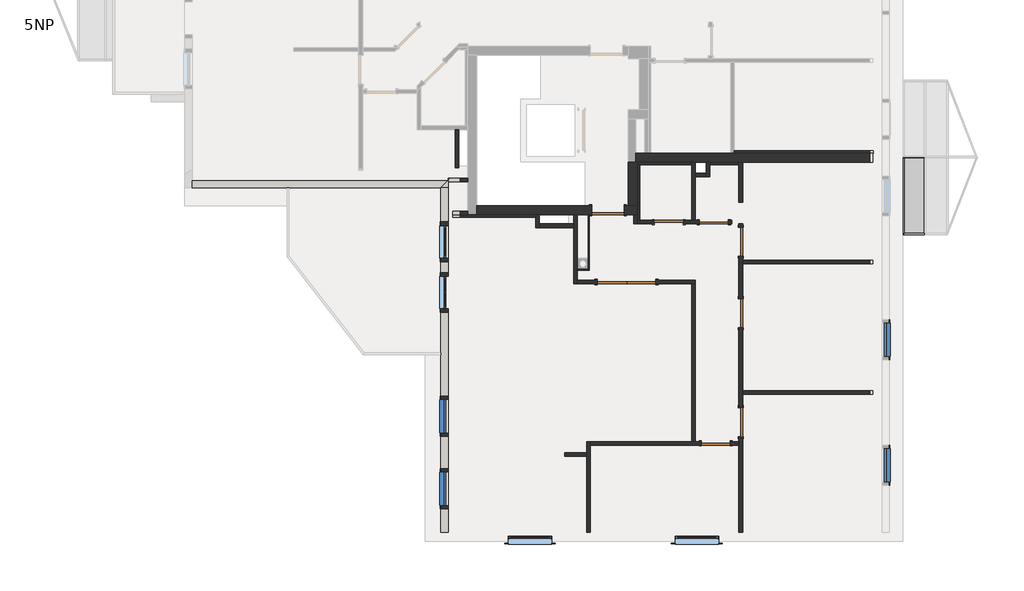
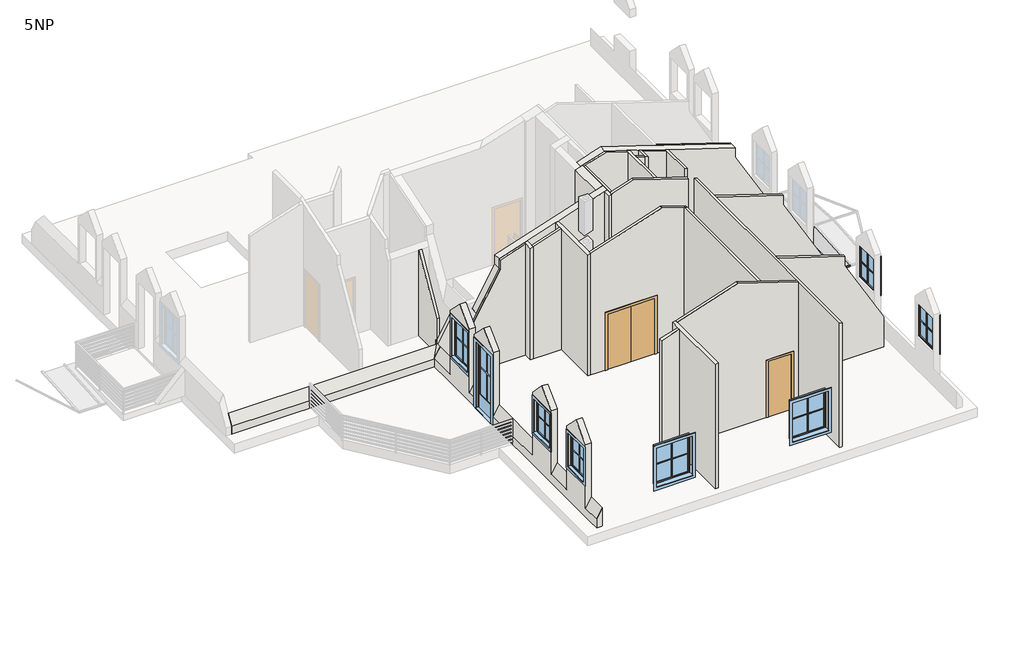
# One storey, part 1 of 4: 32 walls, 8 doors, 8 windows, 2 members, 1 plate.
"""IFC4 building model written with IfcOpenShell, lengths in millimetres."""

from ifc_helpers import new_model, si_unit, frame, origin, place, context, project, spatial, polyline, outline, extrude, faceted_brep, transform, mapped, element, save
from components import door_1600_x_2000mm_ba48827e, sd_800x2000_6a16926d, sd_800x2000_80f4ff25, sd_900x2000_a6683946, rectangular_mullion_40_40_14cc0a15, rectangular_mullion_40_40_b48b72c3, system_panel_system_panel_ddfd2fd1, standard_window_with_mullions_80486b60, standard_window_with_mullions_4ddc0d11, standard_window_with_mullions_4f38f980, window_2_c3f3d78e

model = new_model("IFC4")

# Units and contexts
model_context = context("Model", 3, world=origin())
ifc_project = project(units=[si_unit("LENGTHUNIT", "METRE", prefix="MILLI")], contexts=[model_context])

# Site, building, storey
site = spatial("IfcSite", under=ifc_project)
building = spatial("IfcBuilding", under=site)
storey = spatial("IfcBuildingStorey", under=building, Name="5NP", Elevation=11800.0)

# Doors
placement = place(None, origin())
door_1600_x_2000mm_shape = door_1600_x_2000mm_ba48827e(model_context)
element("IfcDoor", 1, ObjectType="DvoukridleOtevirave : 1600 x 2000mm", at=placement, inside=storey, context=model_context, shape_type="MappedRepresentation", body=[
    mapped(door_1600_x_2000mm_shape, transform((1514.937485, -3932.3709459, 11800.0), x_axis=(-1.0, 0.0, 0.0), y_axis=(0.0, -1.0, 0.0), z_axis=(0.0, 0.0, 1.0))),
])
sd_800x2000_shape = sd_800x2000_6a16926d(model_context)
element("IfcDoor", 2, ObjectType="JednokridlePlne : SD 800x2000", at=placement, inside=storey, context=model_context, shape_type="MappedRepresentation", body=[
    mapped(sd_800x2000_shape, transform((2678.2108579, -2282.3709459, 11800.0), x_axis=(-1.0, 0.0, 0.0), y_axis=(0.0, -1.0, 0.0), z_axis=(0.0, 0.0, 1.0))),
])
element("IfcDoor", 3, ObjectType="JednokridlePlne : SD 800x2000", at=placement, inside=storey, context=model_context, shape_type="MappedRepresentation", body=[
    mapped(sd_800x2000_shape, transform((4662.8037835, -2823.5069169, 11800.0), x_axis=(0.0, 1.0, 0.0), y_axis=(-1.0, 0.0, 0.0), z_axis=(0.0, 0.0, 1.0))),
])
sd_800x2000_2_shape = sd_800x2000_80f4ff25(model_context)
element("IfcDoor", 4, ObjectType="JednokridlePlne : SD 800x2000", at=placement, inside=storey, context=model_context, shape_type="MappedRepresentation", body=[
    mapped(sd_800x2000_2_shape, transform((3924.394389, -2282.3709459, 11800.0), x_axis=(-1.0, 0.0, 0.0), y_axis=(0.0, -1.0, 0.0), z_axis=(0.0, 0.0, 1.0))),
])
element("IfcDoor", 5, ObjectType="JednokridlePlne : SD 800x2000", at=placement, inside=storey, context=model_context, shape_type="MappedRepresentation", body=[
    mapped(sd_800x2000_2_shape, transform((4662.8037835, -4789.4455299, 11800.0), x_axis=(0.0, -1.0, 0.0), y_axis=(1.0, 0.0, 0.0), z_axis=(0.0, 0.0, 1.0))),
])
element("IfcDoor", 6, ObjectType="JednokridlePlne : SD 800x2000", at=placement, inside=storey, context=model_context, shape_type="MappedRepresentation", body=[
    mapped(sd_800x2000_2_shape, transform((4662.8037835, -7792.5643737, 11800.0), x_axis=(0.0, -1.0, 0.0), y_axis=(1.0, 0.0, 0.0), z_axis=(0.0, 0.0, 1.0))),
])
element("IfcDoor", 7, ObjectType="JednokridlePlne : SD 800x2000", at=placement, inside=storey, context=model_context, shape_type="MappedRepresentation", body=[
    mapped(sd_800x2000_2_shape, transform((3974.9367732, -8382.3709459, 11800.0), x_axis=(-1.0, 0.0, 0.0), y_axis=(0.0, -1.0, 0.0), z_axis=(0.0, 0.0, 1.0))),
])
sd_900x2000_shape = sd_900x2000_a6683946(model_context)
element("IfcDoor", 8, ObjectType="JednokridlePlne : SD 900x2000", at=placement, inside=storey, context=model_context, shape_type="MappedRepresentation", body=[
    mapped(sd_900x2000_shape, transform((1002.8077606, -1957.3709459, 11800.0), x_axis=(0.9999999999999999, 0.0, 0.0), y_axis=(0.0, 0.9999999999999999, 0.0), z_axis=(0.0, 0.0, 1.0))),
])

# Members
rectangular_mullion_40_40_shape = rectangular_mullion_40_40_14cc0a15(model_context)
element("IfcMember", 9, ObjectType="Rectangular Mullion : 40/40", at=placement, inside=storey, context=model_context, shape_type="MappedRepresentation", body=[
    mapped(rectangular_mullion_40_40_shape, transform((9132.8037835, -2632.3709459, 11530.0), x_axis=(-1.0, 0.0, 0.0), y_axis=(0.0, 0.06975647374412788, -0.9975640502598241), z_axis=(0.0, -0.997564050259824, -0.06975647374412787))),
])
rectangular_mullion_40_40_2_shape = rectangular_mullion_40_40_b48b72c3(model_context)
element("IfcMember", 10, ObjectType="Rectangular Mullion : 40/40", at=placement, inside=storey, context=model_context, shape_type="MappedRepresentation", body=[
    mapped(rectangular_mullion_40_40_2_shape, transform((9725.4168815, -2632.3709459, 11530.0), x_axis=(0.0, -0.9975640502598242, -0.06975647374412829), y_axis=(0.0, 0.06975647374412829, -0.9975640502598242), z_axis=(1.0, 0.0, 0.0))),
])

# Plate
system_panel_system_panel_shape = system_panel_system_panel_ddfd2fd1(model_context)
element("IfcPlate", 11, ObjectType="System Panel : System Panel", at=placement, inside=storey, context=model_context, shape_type="MappedRepresentation", body=[
    mapped(system_panel_system_panel_shape, transform((9449.1103325, -2592.4683839, 11532.7902589), x_axis=(1.0, 0.0, 0.0), y_axis=(0.0, 0.06975647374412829, -0.9975640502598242), z_axis=(0.0, 0.9975640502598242, 0.06975647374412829))),
])

# Walls
element("IfcWall", 12, ObjectType="Exterior - 150+50mm", at=placement, inside=storey, context=model_context, shape_type="Brep", body=[
    faceted_brep([(-10456.4352243, -1338.1208451, 11800.0), (-3598.9496412, -1338.1208451, 11800.0), (-3398.9496412, -1338.1208451, 11800.0), (-3398.9496412, -1338.1208451, 12457.027944), (-3598.9496412, -1338.1208451, 12110.6177824), (-3616.7447032, -1338.1208451, 12079.795831), (-7837.1962165, -1338.1208451, 12079.795831), (-10456.4352243, -1338.1208451, 12079.795831), (-10456.4352243, -1138.1208451, 11800.0), (-10456.4352243, -1138.1208451, 12426.2059925), (-3416.7447032, -1138.1208451, 12426.2059925), (-3398.9496412, -1138.1208451, 12457.027944), (-3398.9496412, -1138.1208451, 11800.0)], [[[0, 1, 2, 3, 4, 5, 6, 7]], [[8, 9, 10, 11, 12]], [[2, 1, 0, 8, 12]], [[3, 2, 12, 11]], [[0, 7, 9, 8]], [[7, 6, 5, 10, 9]], [[5, 4, 3, 11, 10]]]),
])
element("IfcWall", 13, ObjectType="Exterior - 150+50mm", at=placement, inside=storey, context=model_context, shape_type="Brep", body=[
    faceted_brep([(-3598.9496412, -4672.3709459, 14200.0), (-3598.9496412, -4672.3709459, 11800.0), (-3598.9496412, -5882.3709459, 11800.0), (-3598.9496412, -10832.3709459, 11800.0), (-3598.9496412, -10832.3709459, 12110.6177824), (-3598.9496412, -10182.3709452, 12110.6177824), (-3598.9496412, -10182.3709452, 14387.8679656), (-3598.9496412, -9632.3709452, 14937.8679656), (-3598.9496412, -9082.3709452, 14387.8679656), (-3598.9496412, -9082.3709452, 12110.6177824), (-3598.9496412, -8182.3709452, 12110.6177824), (-3598.9496412, -8182.3709452, 14387.8679656), (-3598.9496412, -7632.3709452, 14937.8679656), (-3598.9496412, -7082.3709452, 14387.8679656), (-3598.9496412, -7082.3709452, 12110.6177824), (-3598.9496412, -5932.3709459, 12110.6177824), (-3598.9496412, -4772.3709459, 12110.6177824), (-3598.9496412, -4772.3709459, 12830.6177824), (-3598.9496412, -4772.3709459, 14387.8679656), (-3598.9496412, -4222.3709459, 14937.8679656), (-3598.9496412, -3672.3709459, 14387.8679656), (-3598.9496412, -3672.3709459, 12830.6177824), (-3598.9496412, -3672.3709459, 12110.6177824), (-3598.9496412, -3377.3709459, 12110.6177824), (-3598.9496412, -3377.3709459, 12830.6177824), (-3598.9496412, -3377.3709459, 14387.8679656), (-3598.9496412, -2827.3709459, 14937.8679656), (-3598.9496412, -2277.3709459, 14387.8679656), (-3598.9496412, -2277.3709459, 12830.6177824), (-3598.9496412, -2277.3709459, 12110.6177824), (-3598.9496412, -1338.1208451, 12110.6177824), (-3598.9496412, -1338.1208451, 11800.0), (-3598.9496412, -3772.3709459, 11800.0), (-3598.9496412, -3772.3709459, 14200.0), (-3598.9496412, -3277.3709459, 12800.0), (-3598.9496412, -2377.3709459, 12800.0), (-3598.9496412, -2377.3709459, 14200.0), (-3598.9496412, -3277.3709459, 14200.0), (-3598.9496412, -8082.3709452, 13000.0), (-3598.9496412, -7182.3709452, 13000.0), (-3598.9496412, -7182.3709452, 14200.0), (-3598.9496412, -8082.3709452, 14200.0), (-3598.9496412, -10082.3709452, 13000.0), (-3598.9496412, -9182.3709452, 13000.0), (-3598.9496412, -9182.3709452, 14200.0), (-3598.9496412, -10082.3709452, 14200.0), (-3398.9496412, -10832.3709459, 11800.0), (-3398.9496412, -4672.3709459, 11800.0), (-3398.9496412, -4672.3709459, 14200.0), (-3398.9496412, -3772.3709459, 14200.0), (-3398.9496412, -3772.3709459, 11800.0), (-3398.9496412, -1338.1208451, 11800.0), (-3398.9496412, -1338.1208451, 12457.027944), (-3398.9496412, -2277.3709459, 12457.027944), (-3398.9496412, -2277.3709459, 14387.8679656), (-3398.9496412, -2827.3709459, 14937.8679656), (-3398.9496412, -3377.3709459, 14387.8679656), (-3398.9496412, -3377.3709459, 12457.027944), (-3398.9496412, -3672.3709459, 12457.027944), (-3398.9496412, -3672.3709459, 14387.8679656), (-3398.9496412, -4222.3709459, 14937.8679656), (-3398.9496412, -4772.3709459, 14387.8679656), (-3398.9496412, -4772.3709459, 12457.027944), (-3398.9496412, -7082.3709452, 12457.027944), (-3398.9496412, -7082.3709452, 14387.8679656), (-3398.9496412, -7632.3709452, 14937.8679656), (-3398.9496412, -8182.3709452, 14387.8679656), (-3398.9496412, -8182.3709452, 12457.027944), (-3398.9496412, -9082.3709452, 12457.027944), (-3398.9496412, -9082.3709452, 14387.8679656), (-3398.9496412, -9632.3709452, 14937.8679656), (-3398.9496412, -10182.3709452, 14387.8679656), (-3398.9496412, -10182.3709452, 12457.027944), (-3398.9496412, -10832.3709459, 12457.027944), (-3398.9496412, -3277.3709459, 12800.0), (-3398.9496412, -3277.3709459, 14200.0), (-3398.9496412, -2377.3709459, 14200.0), (-3398.9496412, -2377.3709459, 12800.0), (-3398.9496412, -8082.3709452, 13000.0), (-3398.9496412, -8082.3709452, 14200.0), (-3398.9496412, -7182.3709452, 14200.0), (-3398.9496412, -7182.3709452, 13000.0), (-3398.9496412, -10082.3709452, 13000.0), (-3398.9496412, -10082.3709452, 14200.0), (-3398.9496412, -9182.3709452, 14200.0), (-3398.9496412, -9182.3709452, 13000.0)], [[[0, 1, 2, 3, 4, 5, 6, 7, 8, 9, 10, 11, 12, 13, 14, 15, 16, 17, 18, 19, 20, 21, 22, 23, 24, 25, 26, 27, 28, 29, 30, 31, 32, 33], [34, 35, 36, 37], [38, 39, 40, 41], [42, 43, 44, 45]], [[46, 47, 48, 49, 50, 51, 52, 53, 54, 55, 56, 57, 58, 59, 60, 61, 62, 63, 64, 65, 66, 67, 68, 69, 70, 71, 72, 73], [74, 75, 76, 77], [78, 79, 80, 81], [82, 83, 84, 85]], [[3, 2, 1, 47, 46]], [[32, 31, 51, 50]], [[31, 30, 52, 51]], [[4, 3, 46, 73]], [[61, 18, 17, 16, 62]], [[20, 59, 58, 22, 21]], [[56, 25, 24, 23, 57]], [[27, 54, 53, 29, 28]], [[5, 72, 71, 6]], [[68, 9, 8, 69]], [[10, 67, 66, 11]], [[63, 14, 13, 64]], [[30, 29, 53, 52]], [[23, 22, 58, 57]], [[16, 15, 14, 63, 62]], [[10, 9, 68, 67]], [[5, 4, 73, 72]], [[27, 26, 55, 54]], [[26, 25, 56, 55]], [[13, 12, 65, 64]], [[12, 11, 66, 65]], [[8, 7, 70, 69]], [[7, 6, 71, 70]], [[20, 19, 60, 59]], [[19, 18, 61, 60]], [[48, 47, 1, 0]], [[49, 48, 0, 33]], [[50, 49, 33, 32]], [[75, 74, 34, 37]], [[76, 75, 37, 36]], [[77, 76, 36, 35]], [[74, 77, 35, 34]], [[79, 78, 38, 41]], [[80, 79, 41, 40]], [[81, 80, 40, 39]], [[78, 81, 39, 38]], [[83, 82, 42, 45]], [[84, 83, 45, 44]], [[85, 84, 44, 43]], [[82, 85, 43, 42]]]),
])
element("IfcWall", 14, ObjectType="Interior - 100mm", at=placement, inside=storey, context=model_context, shape_type="SweptSolid", body=[
    extrude(outline(polyline([(267.6290541, 11800.0), (-782.3709459, 11800.0), (-782.3709459, 13042.3828926), (267.6290541, 14861.0362405), (267.6290541, 11800.0)])), frame((-3207.1962165, 0.0, 0.0), z_axis=(1.0, 0.0, 0.0), x_axis=(0.0, 1.0, 0.0)), (0.0, 0.0, 1.0), 100.0),
])
element("IfcWall", 15, ObjectType="Interior - 100mm", at=placement, inside=storey, context=model_context, shape_type="Brep", body=[
    faceted_brep([(-986.4381272, -2082.3709459, 11800.0), (-986.4381272, -2147.3709459, 11800.0), (-986.4381272, -2432.3709459, 11800.0), (-986.4381272, -2432.3709459, 15773.7907394), (-986.4381272, -2147.3709459, 15773.7907394), (-986.4381272, -2082.3709459, 15773.7907394), (-886.4381272, -2082.3709459, 11800.0), (-886.4381272, -2082.3709459, 15806.282709), (-886.4381272, -2332.3709459, 15806.282709), (-886.4381272, -2432.3709459, 15806.282709), (-886.4381272, -2432.3709459, 11800.0), (-886.4381272, -2332.3709459, 11800.0)], [[[0, 1, 2, 3, 4, 5]], [[6, 7, 8, 9, 10, 11]], [[2, 1, 0, 6, 11, 10]], [[3, 2, 10, 9]], [[0, 5, 7, 6]], [[5, 4, 3, 9, 8, 7]]]),
])
element("IfcWall", 16, ObjectType="Interior - 100mm", at=placement, inside=storey, context=model_context, shape_type="SweptSolid", body=[
    extrude(outline(polyline([(11800.0, -886.4381272), (11800.0, 63.5618728), (16114.9564204, 63.5618728), (15806.282709, -886.4381272), (11800.0, -886.4381272)])), frame((0.0, -2432.3709459, 0.0), z_axis=(0.0, 1.0, 0.0), x_axis=(0.0, 0.0, 1.0)), (0.0, 0.0, 1.0), 100.0),
])
element("IfcWall", 17, ObjectType="Interior - 100mm", at=placement, inside=storey, context=model_context, shape_type="Brep", body=[
    faceted_brep([(63.5618728, -2082.3709459, 11800.0), (63.5618728, -2332.3709459, 11800.0), (63.5618728, -2432.3709459, 11800.0), (63.5618728, -3982.3709459, 11800.0), (63.5618728, -3982.3709459, 16114.9564204), (63.5618728, -2432.3709459, 16114.9564204), (63.5618728, -2332.3709459, 16114.9564204), (63.5618728, -2082.3709459, 16114.9564204), (163.5618728, -2082.3709459, 11800.0), (163.5618728, -2082.3709459, 16147.44839), (163.5618728, -2382.3709459, 16147.44839), (163.5618728, -2682.3709459, 16147.44839), (163.5618728, -2982.3709459, 16147.44839), (163.5618728, -3282.3709459, 16147.44839), (163.5618728, -3582.3709459, 16147.44839), (163.5618728, -3882.3709459, 16147.44839), (163.5618728, -3982.3709459, 16147.44839), (163.5618728, -3982.3709459, 11800.0), (163.5618728, -3882.3709459, 11800.0), (163.5618728, -3612.3709459, 11800.0), (163.5618728, -3582.3709459, 11800.0), (163.5618728, -3282.3709459, 11800.0)], [[[0, 1, 2, 3, 4, 5, 6, 7]], [[8, 9, 10, 11, 12, 13, 14, 15, 16, 17, 18, 19, 20, 21]], [[3, 2, 1, 0, 8, 21, 20, 19, 18, 17]], [[4, 3, 17, 16]], [[0, 7, 9, 8]], [[7, 6, 5, 4, 16, 15, 14, 13, 12, 11, 10, 9]]]),
])
element("IfcWall", 18, ObjectType="Interior - 100mm", at=placement, inside=storey, context=model_context, shape_type="Brep", body=[
    faceted_brep([(163.5618728, -3982.3709459, 11800.0), (714.937485, -3982.3709459, 11800.0), (714.937485, -3982.3709459, 13800.0), (2314.937485, -3982.3709459, 13800.0), (2314.937485, -3982.3709459, 11800.0), (3312.8037835, -3982.3709459, 11800.0), (3412.8037835, -3982.3709459, 11800.0), (3412.8037835, -3982.3709459, 16656.802239), (3312.8037835, -3982.3709459, 16689.2942086), (2571.9978058, -3982.3709459, 16929.9966618), (163.5618728, -3982.3709459, 16147.44839), (714.937485, -3882.3709459, 13800.0), (714.937485, -3882.3709459, 11800.0), (163.5618728, -3882.3709459, 11800.0), (163.5618728, -3882.3709459, 16147.44839), (2571.9978058, -3882.3709459, 16929.9966618), (3412.8037835, -3882.3709459, 16656.802239), (3412.8037835, -3882.3709459, 11800.0), (2314.937485, -3882.3709459, 11800.0), (2314.937485, -3882.3709459, 13800.0)], [[[0, 1, 2, 3, 4, 5, 6, 7, 8, 9, 10]], [[11, 12, 13, 14, 15, 16, 17, 18, 19]], [[13, 12, 1, 0]], [[18, 17, 6, 5, 4]], [[7, 6, 17, 16]], [[0, 10, 14, 13]], [[10, 9, 15, 14]], [[9, 8, 7, 16, 15]], [[2, 1, 12, 11]], [[3, 2, 11, 19]], [[4, 3, 19, 18]]]),
])
element("IfcWall", 19, ObjectType="Interior - 100mm", at=placement, inside=storey, context=model_context, shape_type="SweptSolid", body=[
    extrude(outline(polyline([(16689.2942086, 3312.8037835), (11800.0, 3312.8037835), (11800.0, 3412.8037835), (16656.802239, 3412.8037835), (16689.2942086, 3312.8037835)])), frame((0.0, -8332.3709459, 0.0), z_axis=(0.0, 1.0, 0.0), x_axis=(0.0, 0.0, 1.0)), (0.0, 0.0, 1.0), 4350.0),
])
element("IfcWall", 20, ObjectType="Interior - 100mm", at=placement, inside=storey, context=model_context, shape_type="Brep", body=[
    faceted_brep([(512.8037835, -10832.3709459, 11800.0), (512.8037835, -8432.3709459, 11800.0), (512.8037835, -8332.3709459, 11800.0), (512.8037835, -8332.3709459, 16260.9239656), (512.8037835, -8432.3709459, 16260.9239656), (512.8037835, -10832.3709459, 16260.9239656), (412.8037835, -10832.3709459, 11800.0), (412.8037835, -10832.3709459, 16228.431996), (412.8037835, -8732.3709459, 16228.431996), (412.8037835, -8632.3709459, 16228.431996), (412.8037835, -8332.3709459, 16228.431996), (412.8037835, -8332.3709459, 11800.0), (412.8037835, -8632.3709459, 11800.0), (412.8037835, -8732.3709459, 11800.0)], [[[0, 1, 2, 3, 4, 5]], [[6, 7, 8, 9, 10, 11, 12, 13]], [[2, 1, 0, 6, 13, 12, 11]], [[3, 2, 11, 10]], [[0, 5, 7, 6]], [[5, 4, 3, 10, 9, 8, 7]]]),
])
element("IfcWall", 21, ObjectType="Interior - 100mm", at=placement, inside=storey, context=model_context, shape_type="Brep", body=[
    faceted_brep([(512.8037835, -8432.3709459, 11800.0), (3574.9367732, -8432.3709459, 11800.0), (3574.9367732, -8432.3709459, 13800.0), (4374.9367732, -8432.3709459, 13800.0), (4374.9367732, -8432.3709459, 11800.0), (4612.8037835, -8432.3709459, 11800.0), (4612.8037835, -8432.3709459, 16266.8986035), (2571.9978058, -8432.3709459, 16929.9966618), (512.8037835, -8432.3709459, 16260.9239656), (3574.9367732, -8332.3709459, 13800.0), (3574.9367732, -8332.3709459, 11800.0), (3412.8037835, -8332.3709459, 11800.0), (3312.8037835, -8332.3709459, 11800.0), (512.8037835, -8332.3709459, 11800.0), (512.8037835, -8332.3709459, 16260.9239656), (2571.9978058, -8332.3709459, 16929.9966618), (3312.8037835, -8332.3709459, 16689.2942086), (3412.8037835, -8332.3709459, 16656.802239), (4612.8037835, -8332.3709459, 16266.8986035), (4612.8037835, -8332.3709459, 11800.0), (4374.9367732, -8332.3709459, 11800.0), (4374.9367732, -8332.3709459, 13800.0)], [[[0, 1, 2, 3, 4, 5, 6, 7, 8]], [[9, 10, 11, 12, 13, 14, 15, 16, 17, 18, 19, 20, 21]], [[13, 12, 11, 10, 1, 0]], [[20, 19, 5, 4]], [[0, 8, 14, 13]], [[6, 5, 19, 18]], [[8, 7, 15, 14]], [[7, 6, 18, 17, 16, 15]], [[2, 1, 10, 9]], [[3, 2, 9, 21]], [[4, 3, 21, 20]]]),
])
element("IfcWall", 22, ObjectType="Interior - 100mm", at=placement, inside=storey, context=model_context, shape_type="SweptSolid", body=[
    extrude(outline(polyline([(11800.0, -187.1962165), (11800.0, 412.8037835), (16228.431996, 412.8037835), (16033.4801782, -187.1962165), (11800.0, -187.1962165)])), frame((0.0, -8732.3709459, 0.0), z_axis=(0.0, 1.0, 0.0), x_axis=(0.0, 0.0, 1.0)), (0.0, 0.0, 1.0), 100.0),
])
element("IfcWall", 23, ObjectType="Interior - 100mm", at=placement, inside=storey, context=model_context, shape_type="Brep", body=[
    faceted_brep([(4712.8037835, -10832.3709459, 11800.0), (4712.8037835, -8192.5643737, 11800.0), (4712.8037835, -8192.5643737, 13800.0), (4712.8037835, -7392.5643737, 13800.0), (4712.8037835, -7392.5643737, 11800.0), (4712.8037835, -7032.3709459, 11800.0), (4712.8037835, -6932.3709459, 11800.0), (4712.8037835, -5189.4455299, 11800.0), (4712.8037835, -5189.4455299, 13800.0), (4712.8037835, -4389.4455299, 13800.0), (4712.8037835, -4389.4455299, 11800.0), (4712.8037835, -3432.3709459, 11800.0), (4712.8037835, -3332.3709459, 11800.0), (4712.8037835, -3223.5069169, 11800.0), (4712.8037835, -3223.5069169, 13800.0), (4712.8037835, -2423.5069169, 13800.0), (4712.8037835, -2423.5069169, 11800.0), (4712.8037835, -2332.3709459, 11800.0), (4712.8037835, -2332.3709459, 16234.4066339), (4712.8037835, -3332.3709459, 16234.4066339), (4712.8037835, -3432.3709459, 16234.4066339), (4712.8037835, -6932.3709459, 16234.4066339), (4712.8037835, -7032.3709459, 16234.4066339), (4712.8037835, -10832.3709459, 16234.4066339), (4612.8037835, -8192.5643737, 13800.0), (4612.8037835, -8192.5643737, 11800.0), (4612.8037835, -8332.3709459, 11800.0), (4612.8037835, -8432.3709459, 11800.0), (4612.8037835, -10832.3709459, 11800.0), (4612.8037835, -10832.3709459, 16266.8986035), (4612.8037835, -8432.3709459, 16266.8986035), (4612.8037835, -8332.3709459, 16266.8986035), (4612.8037835, -2332.3709459, 16266.8986035), (4612.8037835, -2332.3709459, 11800.0), (4612.8037835, -2423.5069169, 11800.0), (4612.8037835, -2423.5069169, 13800.0), (4612.8037835, -3223.5069169, 13800.0), (4612.8037835, -3223.5069169, 11800.0), (4612.8037835, -4389.4455299, 11800.0), (4612.8037835, -4389.4455299, 13800.0), (4612.8037835, -5189.4455299, 13800.0), (4612.8037835, -5189.4455299, 11800.0), (4612.8037835, -7392.5643737, 11800.0), (4612.8037835, -7392.5643737, 13800.0)], [[[0, 1, 2, 3, 4, 5, 6, 7, 8, 9, 10, 11, 12, 13, 14, 15, 16, 17, 18, 19, 20, 21, 22, 23]], [[24, 25, 26, 27, 28, 29, 30, 31, 32, 33, 34, 35, 36, 37, 38, 39, 40, 41, 42, 43]], [[28, 27, 26, 25, 1, 0]], [[17, 16, 34, 33]], [[13, 12, 11, 10, 38, 37]], [[42, 41, 7, 6, 5, 4]], [[18, 17, 33, 32]], [[0, 23, 29, 28]], [[23, 22, 21, 20, 19, 18, 32, 31, 30, 29]], [[8, 7, 41, 40]], [[9, 8, 40, 39]], [[10, 9, 39, 38]], [[35, 34, 16, 15]], [[36, 35, 15, 14]], [[37, 36, 14, 13]], [[2, 1, 25, 24]], [[3, 2, 24, 43]], [[4, 3, 43, 42]]]),
])
element("IfcWall", 24, ObjectType="Interior - 100mm", at=placement, inside=storey, context=model_context, shape_type="Brep", body=[
    faceted_brep([(2278.2108579, -2232.3709459, 13800.0), (2278.2108579, -2232.3709459, 11800.0), (1877.8037835, -2232.3709459, 11800.0), (1812.8081358, -2232.3709459, 11800.0), (1812.8081358, -2232.3709459, 16683.3209848), (1877.8037835, -2232.3709459, 16704.4393509), (2571.9978058, -2232.3709459, 16929.9966618), (3312.8037835, -2232.3709459, 16689.2942086), (3412.8037835, -2232.3709459, 16656.802239), (4412.8037835, -2232.3709459, 16331.8825427), (4412.8037835, -2232.3709459, 11800.0), (4324.394389, -2232.3709459, 11800.0), (4324.394389, -2232.3709459, 13800.0), (3524.394389, -2232.3709459, 13800.0), (3524.394389, -2232.3709459, 11800.0), (3412.8037835, -2232.3709459, 11800.0), (3312.8037835, -2232.3709459, 11800.0), (3078.2108579, -2232.3709459, 11800.0), (3078.2108579, -2232.3709459, 13800.0), (1812.8081358, -2332.3709459, 11800.0), (2278.2108579, -2332.3709459, 11800.0), (2278.2108579, -2332.3709459, 13800.0), (3078.2108579, -2332.3709459, 13800.0), (3078.2108579, -2332.3709459, 11800.0), (3524.394389, -2332.3709459, 11800.0), (3524.394389, -2332.3709459, 13800.0), (4324.394389, -2332.3709459, 13800.0), (4324.394389, -2332.3709459, 11800.0), (4412.8037835, -2332.3709459, 11800.0), (4412.8037835, -2332.3709459, 16331.8825427), (2571.9978058, -2332.3709459, 16929.9966618), (1812.8081358, -2332.3709459, 16683.3209848)], [[[0, 1, 2, 3, 4, 5, 6, 7, 8, 9, 10, 11, 12, 13, 14, 15, 16, 17, 18]], [[19, 20, 21, 22, 23, 24, 25, 26, 27, 28, 29, 30, 31]], [[3, 2, 1, 20, 19]], [[11, 10, 28, 27]], [[17, 16, 15, 14, 24, 23]], [[10, 9, 29, 28]], [[4, 3, 19, 31]], [[9, 8, 7, 6, 30, 29]], [[6, 5, 4, 31, 30]], [[25, 24, 14, 13]], [[26, 25, 13, 12]], [[27, 26, 12, 11]], [[21, 20, 1, 0]], [[22, 21, 0, 18]], [[23, 22, 18, 17]]]),
])
element("IfcWall", 25, ObjectType="Interior - 100mm", at=placement, inside=storey, context=model_context, shape_type="Brep", body=[
    faceted_brep([(1712.8081358, -2082.3709459, 11800.0), (1712.8081358, -2332.3709459, 11800.0), (1712.8081358, -2332.3709459, 16650.8290152), (1712.8081358, -2082.3709459, 16650.8290152), (1812.8081358, -2082.3709459, 11800.0), (1812.8081358, -2082.3709459, 16683.3209848), (1812.8081358, -2232.3709459, 16683.3209848), (1812.8081358, -2332.3709459, 16683.3209848), (1812.8081358, -2332.3709459, 11800.0), (1812.8081358, -2232.3709459, 11800.0)], [[[0, 1, 2, 3]], [[4, 5, 6, 7, 8, 9]], [[1, 0, 4, 9, 8]], [[2, 1, 8, 7]], [[0, 3, 5, 4]], [[3, 2, 7, 6, 5]]]),
])
element("IfcWall", 26, ObjectType="Interior - 100mm", at=placement, inside=storey, context=model_context, shape_type="SweptSolid", body=[
    extrude(outline(polyline([(11800.0, 8302.8037835), (12878.7941791, 8302.8037835), (15160.2921908, 6985.5802922), (15495.936781, 6985.5802922), (16234.4066339, 4712.8037835), (11800.0, 4712.8037835), (11800.0, 8302.8037835)])), frame((0.0, -3432.3709459, 0.0), z_axis=(0.0, 1.0, 0.0), x_axis=(0.0, 0.0, 1.0)), (0.0, 0.0, 1.0), 100.0),
])
element("IfcWall", 27, ObjectType="Interior - 100mm", at=placement, inside=storey, context=model_context, shape_type="Brep", body=[
    faceted_brep([(4612.8037835, -632.3709459, 11800.0), (4612.8037835, -697.3709459, 11800.0), (4612.8037835, -1732.3709459, 11800.0), (4612.8037835, -1732.3709459, 16266.8986035), (4612.8037835, -697.3709459, 16266.8986035), (4612.8037835, -632.3709459, 16266.8986035), (4712.8037835, -632.3709459, 11800.0), (4712.8037835, -632.3709459, 16234.4066339), (4712.8037835, -1732.3709459, 16234.4066339), (4712.8037835, -1732.3709459, 11800.0)], [[[0, 1, 2, 3, 4, 5]], [[6, 7, 8, 9]], [[2, 1, 0, 6, 9]], [[3, 2, 9, 8]], [[0, 5, 7, 6]], [[5, 4, 3, 8, 7]]]),
])
element("IfcWall", 28, ObjectType="Interior - 100mm", at=placement, inside=storey, context=model_context, shape_type="Brep", body=[
    faceted_brep([(3712.8037835, -632.3709459, 11800.0), (3712.8037835, -932.3709459, 11800.0), (3712.8037835, -1032.3709459, 11800.0), (3712.8037835, -1032.3709459, 16559.3263301), (3712.8037835, -932.3709459, 16559.3263301), (3712.8037835, -632.3709459, 16559.3263301), (3812.8037835, -632.3709459, 11800.0), (3812.8037835, -632.3709459, 16526.8343605), (3812.8037835, -697.3709459, 16526.8343605), (3812.8037835, -1032.3709459, 16526.8343605), (3812.8037835, -1032.3709459, 11800.0), (3812.8037835, -697.3709459, 11800.0)], [[[0, 1, 2, 3, 4, 5]], [[6, 7, 8, 9, 10, 11]], [[2, 1, 0, 6, 11, 10]], [[3, 2, 10, 9]], [[0, 5, 7, 6]], [[5, 4, 3, 9, 8, 7]]]),
])
element("IfcWall", 29, ObjectType="Interior - 100mm", at=placement, inside=storey, context=model_context, shape_type="SweptSolid", body=[
    extrude(outline(polyline([(11800.0, 3712.8037835), (16559.3263301, 3712.8037835), (16656.802239, 3412.8037835), (11800.0, 3412.8037835), (11800.0, 3712.8037835)])), frame((0.0, -1032.3709459, 0.0), z_axis=(0.0, 1.0, 0.0), x_axis=(0.0, 0.0, 1.0)), (0.0, 0.0, 1.0), 100.0),
])
element("IfcWall", 30, ObjectType="Interior - 100mm", at=placement, inside=storey, context=model_context, shape_type="Brep", body=[
    faceted_brep([(3312.8037835, -632.3709459, 11800.0), (3312.8037835, -697.3709459, 11800.0), (3312.8037835, -2232.3709459, 11800.0), (3312.8037835, -2232.3709459, 16689.2942086), (3312.8037835, -697.3709459, 16689.2942086), (3312.8037835, -632.3709459, 16689.2942086), (3412.8037835, -632.3709459, 11800.0), (3412.8037835, -632.3709459, 16656.802239), (3412.8037835, -932.3709459, 16656.802239), (3412.8037835, -1032.3709459, 16656.802239), (3412.8037835, -2232.3709459, 16656.802239), (3412.8037835, -2232.3709459, 11800.0), (3412.8037835, -1032.3709459, 11800.0), (3412.8037835, -932.3709459, 11800.0)], [[[0, 1, 2, 3, 4, 5]], [[6, 7, 8, 9, 10, 11, 12, 13]], [[2, 1, 0, 6, 13, 12, 11]], [[3, 2, 11, 10]], [[0, 5, 7, 6]], [[5, 4, 3, 10, 9, 8, 7]]]),
])
element("IfcWall", 31, ObjectType="Interior - 100mm", at=placement, inside=storey, context=model_context, shape_type="Brep", body=[
    faceted_brep([(-2857.1962165, -1072.3709459, 11800.0), (-3398.9496412, -1072.3709459, 11800.0), (-3398.9496412, -1072.3709459, 12540.0881584), (-3350.9948041, -1072.3709459, 12540.0881584), (-2857.1962165, -1072.3709459, 13395.3724007), (-2857.1962165, -1172.3709459, 11800.0), (-2857.1962165, -1172.3709459, 13395.3724007), (-3398.9496412, -1172.3709459, 12457.027944), (-3398.9496412, -1172.3709459, 11800.0), (-3398.9496412, -1120.3257831, 12457.027944)], [[[0, 1, 2, 3, 4]], [[5, 6, 7, 8]], [[1, 0, 5, 8]], [[2, 1, 8, 7, 9]], [[0, 4, 6, 5]], [[4, 3, 9, 7, 6]], [[3, 2, 9]]]),
])
element("IfcWall", 32, ObjectType="Interior - 100mm", at=placement, inside=storey, context=model_context, shape_type="SweptSolid", body=[
    extrude(outline(polyline([(11800.0, -2857.1962165), (13395.3724007, -2857.1962165), (12667.9110615, -3277.1962165), (11800.0, -3277.1962165), (11800.0, -2857.1962165)])), frame((0.0, -2082.3709459, 0.0), z_axis=(0.0, 1.0, 0.0), x_axis=(0.0, 0.0, 1.0)), (0.0, 0.0, 1.0), 100.0),
])
element("IfcWall", 33, ObjectType="Interior - 100mm", at=placement, inside=storey, context=model_context, shape_type="SweptSolid", body=[
    extrude(outline(polyline([(11800.0, 4712.8037835), (11800.0, 8302.8037835), (12878.7941791, 8302.8037835), (15160.2921908, 6985.5802922), (15495.936781, 6985.5802922), (16234.4066339, 4712.8037835), (11800.0, 4712.8037835)])), frame((0.0, -7032.3709459, 0.0), z_axis=(0.0, 1.0, 0.0), x_axis=(0.0, 0.0, 1.0)), (0.0, 0.0, 1.0), 100.0),
])
element("IfcWall", 34, ObjectType="Interior - 250mm", at=placement, inside=storey, context=model_context, shape_type="Brep", body=[
    faceted_brep([(1452.8077606, -2082.3709459, 13800.0), (1452.8077606, -2082.3709459, 11800.0), (1712.8081358, -2082.3709459, 11800.0), (1812.8081358, -2082.3709459, 11800.0), (1812.8081358, -2082.3709459, 16683.3209848), (1712.8081358, -2082.3709459, 16650.8290152), (463.5618728, -2082.3709459, 16244.9242989), (163.5618728, -2082.3709459, 16147.44839), (63.5618728, -2082.3709459, 16114.9564204), (-886.4381272, -2082.3709459, 15806.282709), (-986.4381272, -2082.3709459, 15773.7907394), (-1841.5846805, -2082.3709459, 15495.936781), (-1841.5846805, -2082.3709459, 15154.4631818), (-2607.1962165, -2082.3709459, 13828.3851026), (-2607.1962165, -2082.3709459, 11800.0), (-986.4381272, -2082.3709459, 11800.0), (-886.4381272, -2082.3709459, 11800.0), (63.5618728, -2082.3709459, 11800.0), (163.5618728, -2082.3709459, 11800.0), (463.5618728, -2082.3709459, 11800.0), (493.5618728, -2082.3709459, 11800.0), (552.8077606, -2082.3709459, 11800.0), (552.8077606, -2082.3709459, 13800.0), (1812.8077606, -1832.3709459, 11800.0), (1562.8077606, -1832.3709459, 11800.0), (1452.8077606, -1832.3709459, 11800.0), (1452.8077606, -1832.3709459, 13800.0), (552.8077606, -1832.3709459, 13800.0), (552.8077606, -1832.3709459, 11800.0), (-2607.1962165, -1832.3709459, 11800.0), (-2607.1962165, -1832.3709459, 13828.3851026), (-1841.5846805, -1832.3709459, 15154.4631818), (-1841.5846805, -1832.3709459, 15495.936781), (1562.8077606, -1832.3709459, 16602.0909389), (1812.8077606, -1832.3709459, 16683.3208629)], [[[0, 1, 2, 3, 4, 5, 6, 7, 8, 9, 10, 11, 12, 13, 14, 15, 16, 17, 18, 19, 20, 21, 22]], [[23, 24, 25, 26, 27, 28, 29, 30, 31, 32, 33, 34]], [[3, 2, 1, 25, 24, 23]], [[21, 20, 19, 18, 17, 16, 15, 14, 29, 28]], [[4, 3, 23, 34]], [[14, 13, 30, 29]], [[31, 12, 11, 32]], [[13, 12, 31, 30]], [[11, 10, 9, 8, 7, 6, 5, 4, 34, 33, 32]], [[26, 25, 1, 0]], [[27, 26, 0, 22]], [[28, 27, 22, 21]]]),
])
element("IfcWall", 35, ObjectType="Interior - 250mm", at=placement, inside=storey, context=model_context, shape_type="Brep", body=[
    faceted_brep([(1812.8077606, -1832.3709459, 11800.0), (1812.8059596, -632.3709459, 11800.0), (1812.8059596, -632.3709459, 16683.3202778), (1812.8077606, -1832.3709459, 16683.3208629), (1562.8077606, -1832.3709459, 11800.0), (1562.8077606, -1832.3709459, 16602.0909389), (1562.8059596, -632.3709459, 16602.0903537), (1562.8059596, -632.3709459, 11800.0), (1762.8059596, -632.3709459, 11800.0), (1762.8059596, -632.3709459, 16667.0742929)], [[[0, 1, 2, 3]], [[4, 5, 6, 7]], [[1, 0, 4, 7, 8]], [[0, 3, 5, 4]], [[2, 1, 8, 7, 6, 9]], [[3, 2, 9, 6, 5]]]),
])
element("IfcWall", 36, ObjectType="Interior - 250mm", at=placement, inside=storey, context=model_context, shape_type="Brep", body=[
    faceted_brep([(8302.8037835, -382.3709459, 11800.0), (4482.8037835, -382.3709459, 11800.0), (4382.8037835, -382.3709459, 11800.0), (2177.8037835, -382.3709459, 11800.0), (2112.8037835, -382.3709459, 11800.0), (2012.8037835, -382.3709459, 11800.0), (1762.8055844, -382.3709459, 11800.0), (1762.8055844, -382.3709459, 16667.074171), (2012.8037835, -382.3709459, 16748.3035099), (2112.8037835, -382.3709459, 16780.7954795), (2177.8037835, -382.3709459, 16801.9152598), (2571.9978058, -382.3709459, 16929.9966618), (4382.8037835, -382.3709459, 16341.6301336), (4482.8037835, -382.3709459, 16309.138164), (6985.5802922, -382.3709459, 15495.936781), (6985.5802922, -382.3709459, 15160.2921908), (8302.8037835, -382.3709459, 12878.7941791), (8302.8037835, -632.3709459, 11800.0), (8302.8037835, -632.3709459, 12878.7941791), (6985.5802922, -632.3709459, 15160.2921908), (6985.5802922, -632.3709459, 15495.936781), (4712.8037835, -632.3709459, 16234.4066339), (4612.8037835, -632.3709459, 16266.8986035), (3812.8037835, -632.3709459, 16526.8343605), (3712.8037835, -632.3709459, 16559.3263301), (3412.8037835, -632.3709459, 16656.802239), (3312.8037835, -632.3709459, 16689.2942086), (2571.9978058, -632.3709459, 16929.9966618), (1812.8059596, -632.3709459, 16683.3202778), (1762.8059596, -632.3709459, 16667.0742929), (1762.8059596, -632.3709459, 11800.0), (1812.8059596, -632.3709459, 11800.0), (3312.8037835, -632.3709459, 11800.0), (3412.8037835, -632.3709459, 11800.0), (3712.8037835, -632.3709459, 11800.0), (3812.8037835, -632.3709459, 11800.0), (4612.8037835, -632.3709459, 11800.0), (4712.8037835, -632.3709459, 11800.0)], [[[0, 1, 2, 3, 4, 5, 6, 7, 8, 9, 10, 11, 12, 13, 14, 15, 16]], [[17, 18, 19, 20, 21, 22, 23, 24, 25, 26, 27, 28, 29, 30, 31, 32, 33, 34, 35, 36, 37]], [[6, 5, 4, 3, 2, 1, 0, 17, 37, 36, 35, 34, 33, 32, 31, 30]], [[0, 16, 18, 17]], [[7, 6, 30, 29]], [[19, 15, 14, 20]], [[16, 15, 19, 18]], [[14, 13, 12, 11, 27, 26, 25, 24, 23, 22, 21, 20]], [[11, 10, 9, 8, 7, 29, 28, 27]]]),
])
element("IfcWall", 37, ObjectType="Interior - 300mm", at=placement, inside=storey, context=model_context, shape_type="Brep", body=[
    faceted_brep([(463.5618728, -2082.3709459, 11800.0), (463.5618728, -3282.3709459, 11800.0), (463.5618728, -3582.3709459, 11800.0), (463.5618728, -3612.3709459, 11800.0), (463.5618728, -3612.3709459, 14750.0), (463.5618728, -3582.3709459, 14750.0), (463.5618728, -2082.3709459, 14750.0), (493.5618728, -2082.3709459, 11800.0), (493.5618728, -2082.3709459, 14750.0), (493.5618728, -3612.3709459, 14750.0), (493.5618728, -3612.3709459, 11800.0)], [[[0, 1, 2, 3, 4, 5, 6]], [[7, 8, 9, 10]], [[3, 2, 1, 0, 7, 10]], [[6, 5, 4, 9, 8]], [[4, 3, 10, 9]], [[0, 6, 8, 7]]]),
])
element("IfcWall", 38, ObjectType="Interior - 300mm", at=placement, inside=storey, context=model_context, shape_type="SweptSolid", body=[
    extrude(outline(polyline([(163.5618728, -3582.3709459), (463.5618728, -3582.3709459), (463.5618728, -3612.3709459), (163.5618728, -3612.3709459), (163.5618728, -3582.3709459)])), frame((0.0, 0.0, 11800.0), z_axis=(0.0, 0.0, 1.0), x_axis=(1.0, 0.0, 0.0)), (0.0, 0.0, 1.0), 2950.0),
])
element("IfcWall", 39, ObjectType="Interior - 65mm", at=placement, inside=storey, context=model_context, shape_type="Brep", body=[
    faceted_brep([(3312.8037835, -632.3709459, 11800.0), (1812.8037835, -632.3709459, 11800.0), (1812.8037835, -632.3709459, 16683.3195707), (2571.9978058, -632.3709459, 16929.9966618), (3312.8037835, -632.3709459, 16689.2942086), (3312.8037835, -697.3709459, 11800.0), (3312.8037835, -697.3709459, 16689.2942086), (2571.9978058, -697.3709459, 16929.9966618), (1877.8037835, -697.3709459, 16704.4393509), (1812.8037835, -697.3709459, 16683.3195707), (1812.8037835, -697.3709459, 11800.0), (1877.8037835, -697.3709459, 11800.0)], [[[0, 1, 2, 3, 4]], [[5, 6, 7, 8, 9, 10, 11]], [[1, 0, 5, 11, 10]], [[2, 1, 10, 9]], [[0, 4, 6, 5]], [[4, 3, 7, 6]], [[3, 2, 9, 8, 7]]]),
])
element("IfcWall", 40, ObjectType="Interior - 65mm", at=placement, inside=storey, context=model_context, shape_type="SweptSolid", body=[
    extrude(outline(polyline([(16683.3195707, 1812.8037835), (11800.0, 1812.8037835), (11800.0, 1877.8037835), (16704.4393509, 1877.8037835), (16683.3195707, 1812.8037835)])), frame((0.0, -2232.3709459, 0.0), z_axis=(0.0, 1.0, 0.0), x_axis=(0.0, 0.0, 1.0)), (0.0, 0.0, 1.0), 1535.0),
])
element("IfcWall", 41, ObjectType="Interior - 65mm", at=placement, inside=storey, context=model_context, shape_type="SweptSolid", body=[
    extrude(outline(polyline([(11800.0, 4612.8037835), (16266.8986035, 4612.8037835), (16526.8343605, 3812.8037835), (11800.0, 3812.8037835), (11800.0, 4612.8037835)])), frame((0.0, -697.3709459, 0.0), z_axis=(0.0, 1.0, 0.0), x_axis=(0.0, 0.0, 1.0)), (0.0, 0.0, 1.0), 65.0),
])
element("IfcWall", 42, ObjectType="Interior - 65mm", at=placement, inside=storey, context=model_context, shape_type="SweptSolid", body=[
    extrude(outline(polyline([(11800.0, 4482.8037835), (11800.0, 8318.801435), (12851.0854337, 8318.801435), (15160.2921908, 6985.5802922), (15495.936781, 6985.5802922), (16309.138164, 4482.8037835), (11800.0, 4482.8037835)])), frame((0.0, -382.3709459, 0.0), z_axis=(0.0, 1.0, 0.0), x_axis=(0.0, 0.0, 1.0)), (0.0, 0.0, 1.0), 65.0),
])
element("IfcWall", 43, ObjectType="Interior - 65mm", at=placement, inside=storey, context=model_context, shape_type="SweptSolid", body=[
    extrude(outline(polyline([(11800.0, -986.4381272), (15773.7907394, -986.4381272), (15495.936781, -1841.5846805), (15154.4631818, -1841.5846805), (12667.9110615, -3277.1962165), (11800.0, -3277.1962165), (11800.0, -986.4381272)])), frame((0.0, -2147.3709459, 0.0), z_axis=(0.0, 1.0, 0.0), x_axis=(0.0, 0.0, 1.0)), (0.0, 0.0, 1.0), 65.0),
])

# Windows
standard_window_with_mullions_shape = standard_window_with_mullions_80486b60(model_context)
element("IfcWindow", 44, ObjectType="Standard Window with mullions : 1200/1400", at=placement, inside=storey, context=model_context, shape_type="MappedRepresentation", body=[
    mapped(standard_window_with_mullions_shape, transform((-1144.1249228, -10982.3709459, 11800.0), x_axis=(-1.0, 0.0, 0.0), y_axis=(0.0, -1.0, 0.0), z_axis=(0.0, 0.0, 1.0))),
])
element("IfcWindow", 45, ObjectType="Standard Window with mullions : 1200/1400", at=placement, inside=storey, context=model_context, shape_type="MappedRepresentation", body=[
    mapped(standard_window_with_mullions_shape, transform((3453.0392115, -10982.3709459, 11800.0), x_axis=(-1.0, 0.0, 0.0), y_axis=(0.0, -1.0, 0.0), z_axis=(0.0, 0.0, 1.0))),
])
standard_window_with_mullions_2_shape = standard_window_with_mullions_4ddc0d11(model_context)
element("IfcWindow", 46, ObjectType="Standard Window with mullions : 900/1400", at=placement, inside=storey, context=model_context, shape_type="MappedRepresentation", body=[
    mapped(standard_window_with_mullions_2_shape, transform((-3498.9496412, -2827.3709459, 11800.0), x_axis=(0.0, 1.0, 0.0), y_axis=(-1.0, 0.0, 0.0), z_axis=(0.0, 0.0, 1.0))),
])
standard_window_with_mullions_3_shape = standard_window_with_mullions_4f38f980(model_context)
element("IfcWindow", 47, ObjectType="Standard Window with mullions : 900/1200", at=placement, inside=storey, context=model_context, shape_type="MappedRepresentation", body=[
    mapped(standard_window_with_mullions_3_shape, transform((-3498.9496412, -7632.3709452, 11800.0), x_axis=(0.0, 1.0, 0.0), y_axis=(-1.0, 0.0, 0.0), z_axis=(0.0, 0.0, 1.0))),
])
element("IfcWindow", 48, ObjectType="Standard Window with mullions : 900/1200", at=placement, inside=storey, context=model_context, shape_type="MappedRepresentation", body=[
    mapped(standard_window_with_mullions_3_shape, transform((-3498.9496412, -9632.3709452, 11800.0), x_axis=(0.0, 1.0, 0.0), y_axis=(-1.0, 0.0, 0.0), z_axis=(0.0, 0.0, 1.0))),
])
element("IfcWindow", 49, ObjectType="Standard Window with mullions : 900/1200", at=placement, inside=storey, context=model_context, shape_type="MappedRepresentation", body=[
    mapped(standard_window_with_mullions_3_shape, transform((8657.3155772, -8982.3709459, 11800.0), x_axis=(0.0, -1.0, 0.0), y_axis=(1.0, 0.0, 0.0), z_axis=(0.0, 0.0, 1.0))),
])
element("IfcWindow", 50, ObjectType="Standard Window with mullions : 900/1200", at=placement, inside=storey, context=model_context, shape_type="MappedRepresentation", body=[
    mapped(standard_window_with_mullions_3_shape, transform((8657.3155772, -5524.0530367, 11800.0), x_axis=(0.0, -1.0, 0.0), y_axis=(1.0, 0.0, 0.0), z_axis=(0.0, 0.0, 1.0))),
])
window_2_shape = window_2_c3f3d78e(model_context)
element("IfcWindow", 51, ObjectType="Window 2 : 900/2400", at=placement, inside=storey, context=model_context, shape_type="MappedRepresentation", body=[
    mapped(window_2_shape, transform((-3498.9496412, -4222.3709459, 11800.0), x_axis=(0.0, 1.0, 0.0), y_axis=(-1.0, 0.0, 0.0), z_axis=(0.0, 0.0, 1.0))),
])

save(model, "model.ifc")
